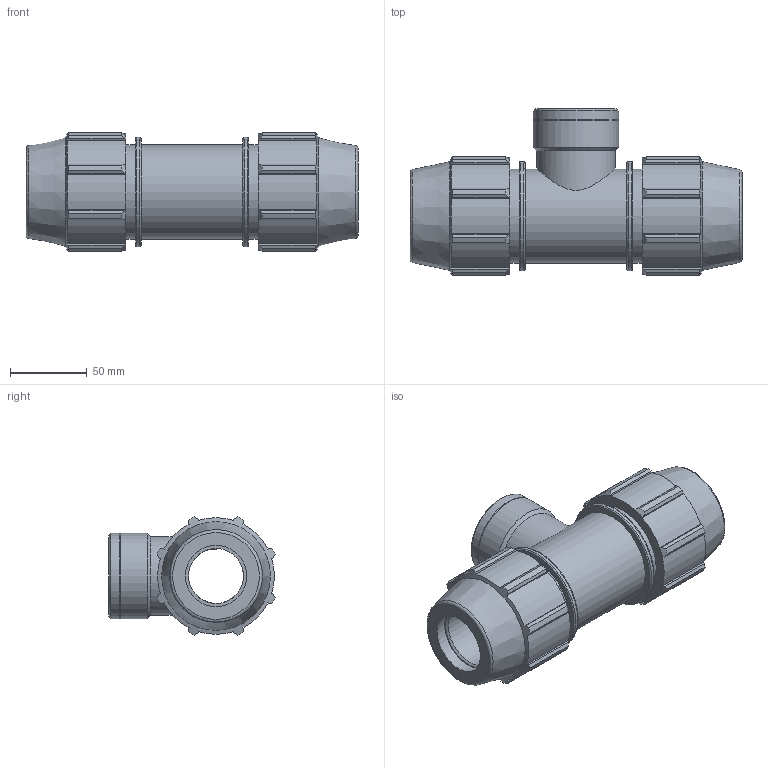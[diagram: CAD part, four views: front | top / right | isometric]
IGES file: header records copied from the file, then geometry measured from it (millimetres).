
Global section: file name: 071400040015_181400040015_0714060400150A.ipt; native system: Autodesk Inventor 2015; preprocessor: unknown; author: KIM; date: 20170606.172155; units: millimetre
Bounding box: 217 x 108.58 x 77.16 mm (x, y, z)
Volume: 572294.7 mm3; surface area: 100946.8 mm2
Topology: 1 solids, 1 shells, 157 faces, 443 edges, 299 vertices
Faces by surface type: plane 79, cylinder 40, cone 23, revolution 15
Full cylindrical faces by diameter (mm): 51.572 x1, 56.056 x2, 61.5 x3, 71.34 x2
